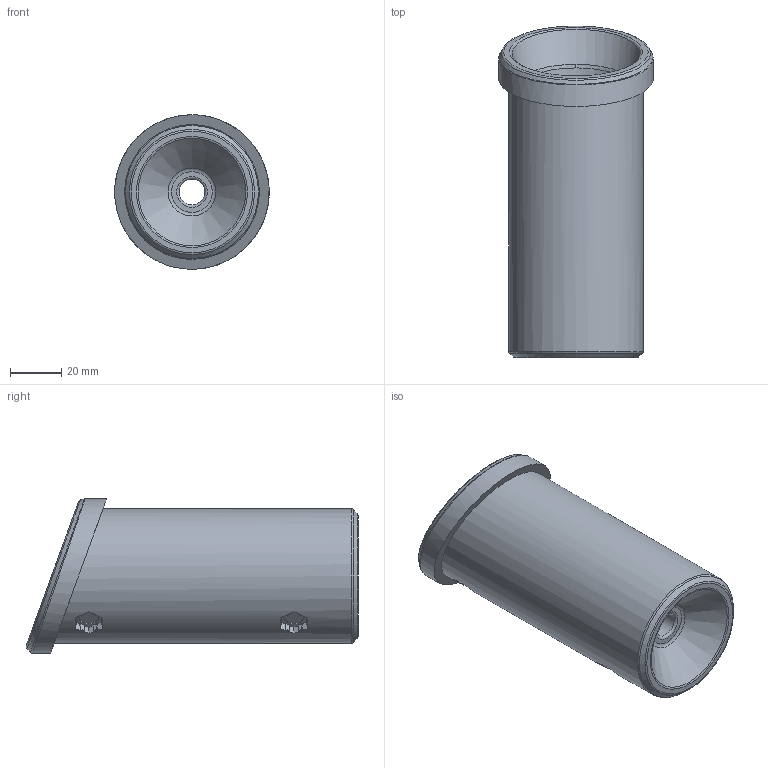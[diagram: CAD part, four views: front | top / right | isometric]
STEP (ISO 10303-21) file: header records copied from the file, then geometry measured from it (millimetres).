
FILE_DESCRIPTION (( 'STEP AP214' ), '1' );
FILE_NAME ('MONO_038-p217_02.STEP', '2026-03-24T00:23:17', ( '' ), ( '' ), 'SwSTEP 2.0', 'SolidWorks 2024', '' );
FILE_SCHEMA (( 'AUTOMOTIVE_DESIGN' ));
Length unit declared in the file: millimetre
Products named in the file (1): MONO_038-p217_02
Bounding box: 60.25 x 129.52 x 60.3 mm (x, y, z)
Volume: 118046.4 mm3; surface area: 37763.3 mm2
Topology: 1 solids, 1 shells, 184 faces, 505 edges, 333 vertices
Faces by surface type: plane 132, bspline 29, cone 10, cylinder 8, torus 5
Full cylindrical faces by diameter (mm): 8 x4, 10 x1, 45.025 x1, 52.5 x1, 60.3 x1
Entity records: 9759 total; most frequent: CARTESIAN_POINT 5665, ORIENTED_EDGE 956, DIRECTION 666, EDGE_CURVE 478, VERTEX_POINT 326, LINE 242, VECTOR 242, EDGE_LOOP 216
